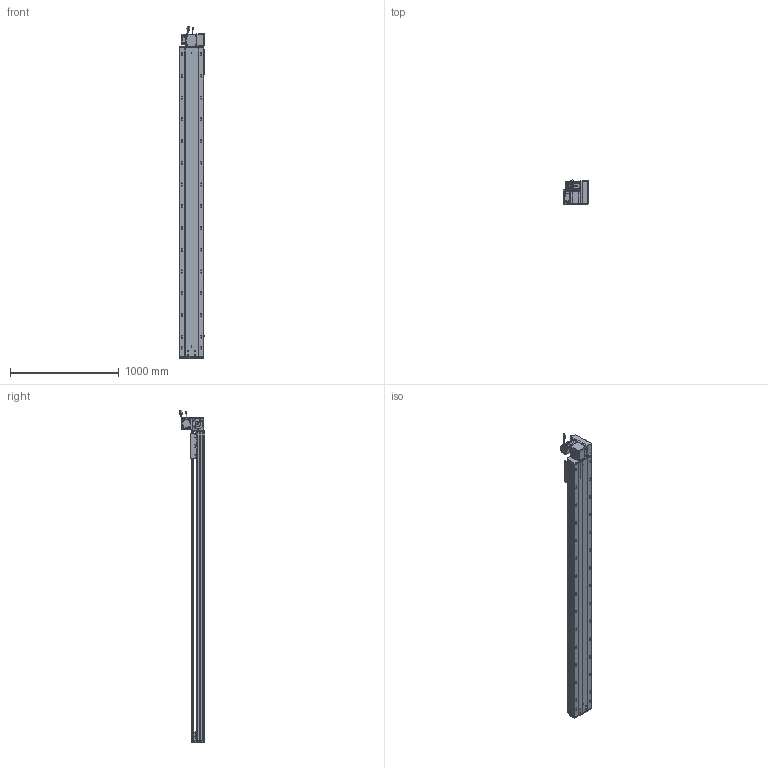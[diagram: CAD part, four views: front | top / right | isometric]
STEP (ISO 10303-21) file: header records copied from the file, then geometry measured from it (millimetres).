
FILE_DESCRIPTION (( 'STEP AP203' ), '1' );
FILE_NAME ('RY220-T-300-UR.SLDASM_2500.step', '2022-07-25T08:45:25', ( '' ), ( '' ), 'SwSTEP 2.0', 'SolidWorks 2016', '' );
FILE_SCHEMA (( 'CONFIG_CONTROL_DESIGN' ));
Length unit declared in the file: millimetre
Products named in the file (14): 110A-T-肮祭謫釱傷裔; RY220-T菁釱-300_2500; 覜茼ん672; RY220-俋离672覜茼んえ; RY220-T-湍謫欶(鍼踢); RY220-同步轮副支撑座6304×2; RY220翋肮祭謫釱; RY220-T-300-奻裔啣_2500; 滅袉蝶18-15; 怢湛750W_ECMA-CX0807ES; RY220-T-蛌殏萇儂假蚾啣(750W); RY220翋肮祭謫裔啣; RY220-T-300-UR.SLDASM_2500; RY220圉猾敕々湍臏賑輸
Assembly tree (18 placements, depth 2):
  RY220-T-300-UR.SLDASM_2500
    RY220-T菁釱-300_2500
    RY220翋肮祭謫釱
    覜茼ん672  x3
    RY220圉猾敕々湍臏賑輸
    RY220-T-300-奻裔啣_2500
    RY220-俋离672覜茼んえ
    滅袉蝶18-15  x3
    RY220翋肮祭謫裔啣  x2
    110A-T-肮祭謫釱傷裔
    怢湛750W_ECMA-CX0807ES
    RY220-T-湍謫欶(鍼踢)
    RY220-T-蛌殏萇儂假蚾啣(750W)
    RY220-同步轮副支撑座6304×2
Bounding box: 238.7 x 231.74 x 3053.27 mm (x, y, z)
Volume: 21965765.5 mm3; surface area: 6744922.3 mm2
Topology: 19 solids, 19 shells, 2936 faces, 8119 edges, 5096 vertices
Faces by surface type: cylinder 1436, plane 1069, cone 349, bspline 56, sphere 16, torus 10
Entity records: 97891 total; most frequent: CARTESIAN_POINT 27671, ORIENTED_EDGE 14522, DIRECTION 13972, EDGE_CURVE 7261, AXIS2_PLACEMENT_3D 5026, VERTEX_POINT 4720, VECTOR 3920, LINE 3920
